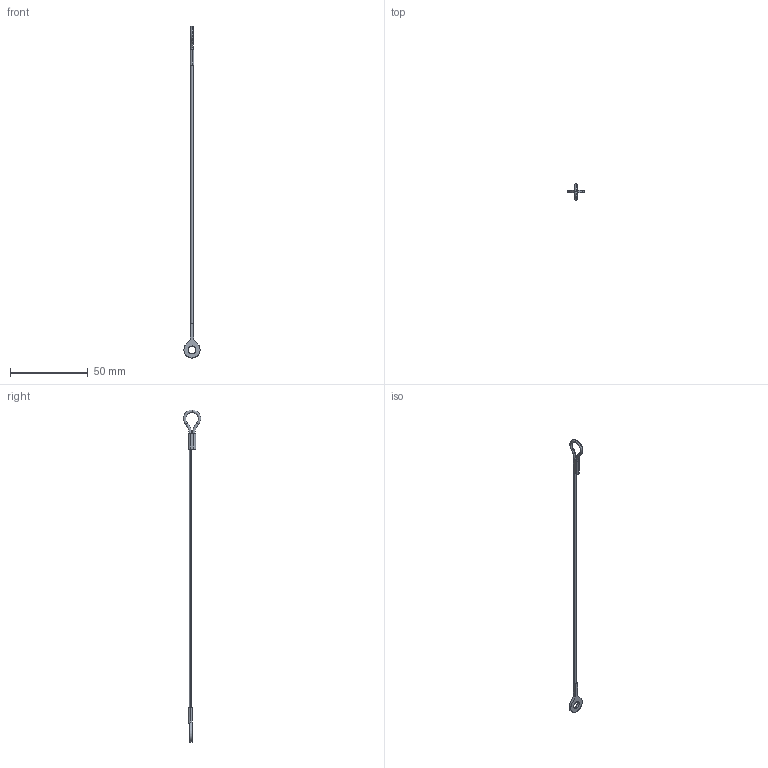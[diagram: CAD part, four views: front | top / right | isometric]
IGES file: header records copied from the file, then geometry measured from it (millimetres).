
Start section: SolidWorks IGES file using analytic representation for surfaces
Global section: file name: C:\Users\ianosborn\Desktop\LA1075_v2\LA1075_v2_20260320_IGES\LA1075.I06-203N1.igs; native system: SolidWorks 2019; preprocessor: SolidWorks 2019; author: IanOsborn; date: 260323.164447; units: millimetre
Bounding box: 10.41 x 11.16 x 214 mm (x, y, z)
Surface area: 1458 mm2 (no closed solid volume)
Topology: 0 solids, 0 shells, 32 faces, 404 edges, 404 vertices
Faces by surface type: bspline 22, revolution 10
